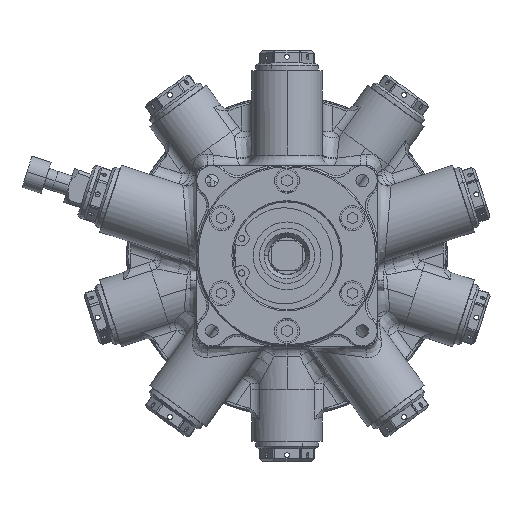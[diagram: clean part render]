
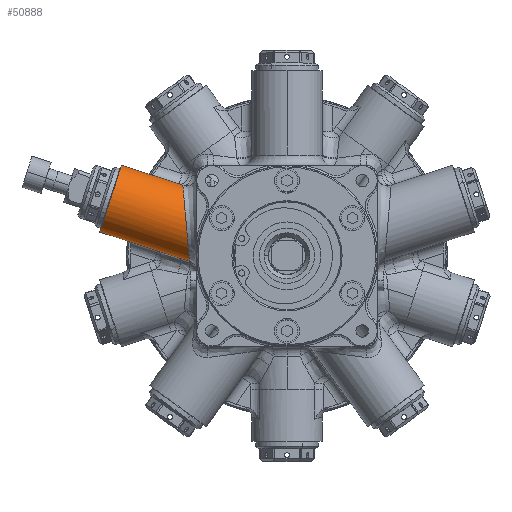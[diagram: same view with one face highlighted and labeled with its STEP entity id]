
A CAD part, top view. The second image highlights one B-rep face of the part: STEP entity #50888.
In plain terms, the highlighted cylindrical face has radius 14 mm (diameter 28 mm), a partial arc.
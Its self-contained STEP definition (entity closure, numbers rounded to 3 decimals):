
#529 = EDGE_CURVE ( 'NONE', #39119, #3585, #38606, .T. ) ;
#573 = CARTESIAN_POINT ( 'NONE',  ( -74.704, 9.552, 6. ) ) ;
#813 = EDGE_CURVE ( 'NONE', #39119, #41798, #21148, .T. ) ;
#922 = CARTESIAN_POINT ( 'NONE',  ( -42.994, -0.751, 6. ) ) ;
#1173 = CIRCLE ( 'NONE', #18901, 14. ) ;
#3365 = EDGE_CURVE ( 'NONE', #41798, #33842, #45339, .T. ) ;
#3585 = VERTEX_POINT ( 'NONE', #50732 ) ;
#4035 = AXIS2_PLACEMENT_3D ( 'NONE', #17601, #8377, #45184 ) ;
#7415 = CARTESIAN_POINT ( 'NONE',  ( -41.657, -1.185, 6.367 ) ) ;
#7458 = ORIENTED_EDGE ( 'NONE', *, *, #25939, .T. ) ;
#7687 = CARTESIAN_POINT ( 'NONE',  ( -38.939, -2.037, 6.913 ) ) ;
#8377 = DIRECTION ( 'NONE',  ( -0.951, 0.309, 0. ) ) ;
#9697 = DIRECTION ( 'NONE',  ( -0.951, 0.309, 0. ) ) ;
#10428 = CARTESIAN_POINT ( 'NONE',  ( -41.545, 28.014, 8.328 ) ) ;
#12026 = CARTESIAN_POINT ( 'NONE',  ( -40.303, -1.611, 6.665 ) ) ;
#12038 = VECTOR ( 'NONE', #15184, 1000. ) ;
#12344 = CARTESIAN_POINT ( 'NONE',  ( -41.545, 28.014, 8.328 ) ) ;
#13281 = ORIENTED_EDGE ( 'NONE', *, *, #529, .F. ) ;
#15184 = DIRECTION ( 'NONE',  ( -0.951, 0.309, 0. ) ) ;
#17160 = ORIENTED_EDGE ( 'NONE', *, *, #30471, .F. ) ;
#17601 = CARTESIAN_POINT ( 'NONE',  ( -59.441, 19.314, 6. ) ) ;
#18005 = DIRECTION ( 'NONE',  ( -0.951, 0.309, 0. ) ) ;
#18901 = AXIS2_PLACEMENT_3D ( 'NONE', #27516, #59731, #32102 ) ;
#19546 = ORIENTED_EDGE ( 'NONE', *, *, #3365, .T. ) ;
#20200 = CARTESIAN_POINT ( 'NONE',  ( -41.559, 28.224, 6. ) ) ;
#20246 = CARTESIAN_POINT ( 'NONE',  ( -41.559, 28.224, 6.782 ) ) ;
#21148 = B_SPLINE_CURVE_WITH_KNOTS ( 'NONE', 3,
 ( #39543, #7415, #12026, #44237 ),
 .UNSPECIFIED., .F., .F.,
 ( 4, 4 ),
 ( 0., 0.004 ),
 .UNSPECIFIED. ) ;
#21368 = VECTOR ( 'NONE', #9697, 1000. ) ;
#23007 = VERTEX_POINT ( 'NONE', #32239 ) ;
#25939 = EDGE_CURVE ( 'NONE', #35406, #23007, #36516, .T. ) ;
#26049 = CARTESIAN_POINT ( 'NONE',  ( -39.078, -0.445, 29.443 ) ) ;
#27516 = CARTESIAN_POINT ( 'NONE',  ( -70.378, 22.867, 6. ) ) ;
#27809 = B_SPLINE_CURVE_WITH_KNOTS ( 'NONE', 3,
 ( #10428, #51832, #20246, #52458 ),
 .UNSPECIFIED., .F., .F.,
 ( 4, 4 ),
 ( 0., 0.002 ),
 .UNSPECIFIED. ) ;
#30219 = EDGE_LOOP ( 'NONE', ( #7458, #53442, #55611, #17160, #13281, #48104, #19546, #37150 ) ) ;
#30471 = EDGE_CURVE ( 'NONE', #3585, #59372, #32158, .T. ) ;
#32102 = DIRECTION ( 'NONE',  ( 0., 0., 1. ) ) ;
#32158 = LINE ( 'NONE', #51125, #21368 ) ;
#32239 = CARTESIAN_POINT ( 'NONE',  ( -56.738, 33.156, 6. ) ) ;
#32819 = FACE_OUTER_BOUND ( 'NONE', #30219, .T. ) ;
#33842 = VERTEX_POINT ( 'NONE', #46298 ) ;
#33899 = VECTOR ( 'NONE', #18005, 1000. ) ;
#35406 = VERTEX_POINT ( 'NONE', #20200 ) ;
#35467 = DIRECTION ( 'NONE',  ( -0.951, 0.309, 0. ) ) ;
#36516 = LINE ( 'NONE', #47380, #12038 ) ;
#36681 = CARTESIAN_POINT ( 'NONE',  ( -66.052, 36.182, 6. ) ) ;
#37150 = ORIENTED_EDGE ( 'NONE', *, *, #54149, .T. ) ;
#38606 = LINE ( 'NONE', #573, #45934 ) ;
#39119 = VERTEX_POINT ( 'NONE', #922 ) ;
#39400 = EDGE_CURVE ( 'NONE', #57884, #59372, #1173, .T. ) ;
#39543 = CARTESIAN_POINT ( 'NONE',  ( -42.994, -0.751, 6. ) ) ;
#39863 = CARTESIAN_POINT ( 'NONE',  ( -41.193, 23.952, 30.592 ) ) ;
#41798 = VERTEX_POINT ( 'NONE', #7687 ) ;
#43061 = CARTESIAN_POINT ( 'NONE',  ( -74.704, 9.552, 6. ) ) ;
#44237 = CARTESIAN_POINT ( 'NONE',  ( -38.939, -2.037, 6.913 ) ) ;
#44357 = CARTESIAN_POINT ( 'NONE',  ( -38.939, -2.037, 6.913 ) ) ;
#45184 = DIRECTION ( 'NONE',  ( -0.309, -0.951, 0. ) ) ;
#45339 =( BOUNDED_CURVE ( )  B_SPLINE_CURVE ( 3, ( #44357, #26049, #39863, #12344 ),
 .UNSPECIFIED., .F., .F. ) 
 B_SPLINE_CURVE_WITH_KNOTS ( ( 4, 4 ),
 ( 3.207, 6.116 ),
 .UNSPECIFIED. ) 
 CURVE ( )  GEOMETRIC_REPRESENTATION_ITEM ( )  RATIONAL_B_SPLINE_CURVE ( ( 1., 0.411, 0.411, 1. ) ) 
 REPRESENTATION_ITEM ( '' )  );
#45594 = CARTESIAN_POINT ( 'NONE',  ( -55.115, 32.628, 6. ) ) ;
#45934 = VECTOR ( 'NONE', #35467, 1000. ) ;
#46174 = LINE ( 'NONE', #45594, #33899 ) ;
#46298 = CARTESIAN_POINT ( 'NONE',  ( -41.545, 28.014, 8.328 ) ) ;
#47380 = CARTESIAN_POINT ( 'NONE',  ( -55.115, 32.628, 6. ) ) ;
#48104 = ORIENTED_EDGE ( 'NONE', *, *, #813, .T. ) ;
#50732 = CARTESIAN_POINT ( 'NONE',  ( -65.39, 6.526, 6. ) ) ;
#50888 = ADVANCED_FACE ( 'NONE', ( #32819 ), #55919, .T. ) ;
#51125 = CARTESIAN_POINT ( 'NONE',  ( -63.767, 5.999, 6. ) ) ;
#51832 = CARTESIAN_POINT ( 'NONE',  ( -41.557, 28.155, 7.559 ) ) ;
#52347 = EDGE_CURVE ( 'NONE', #23007, #57884, #46174, .T. ) ;
#52458 = CARTESIAN_POINT ( 'NONE',  ( -41.559, 28.224, 6. ) ) ;
#53442 = ORIENTED_EDGE ( 'NONE', *, *, #52347, .T. ) ;
#54149 = EDGE_CURVE ( 'NONE', #33842, #35406, #27809, .T. ) ;
#55611 = ORIENTED_EDGE ( 'NONE', *, *, #39400, .T. ) ;
#55919 = CYLINDRICAL_SURFACE ( 'NONE', #4035, 14. ) ;
#57884 = VERTEX_POINT ( 'NONE', #36681 ) ;
#59372 = VERTEX_POINT ( 'NONE', #43061 ) ;
#59731 = DIRECTION ( 'NONE',  ( 0.951, -0.309, 0. ) ) ;
